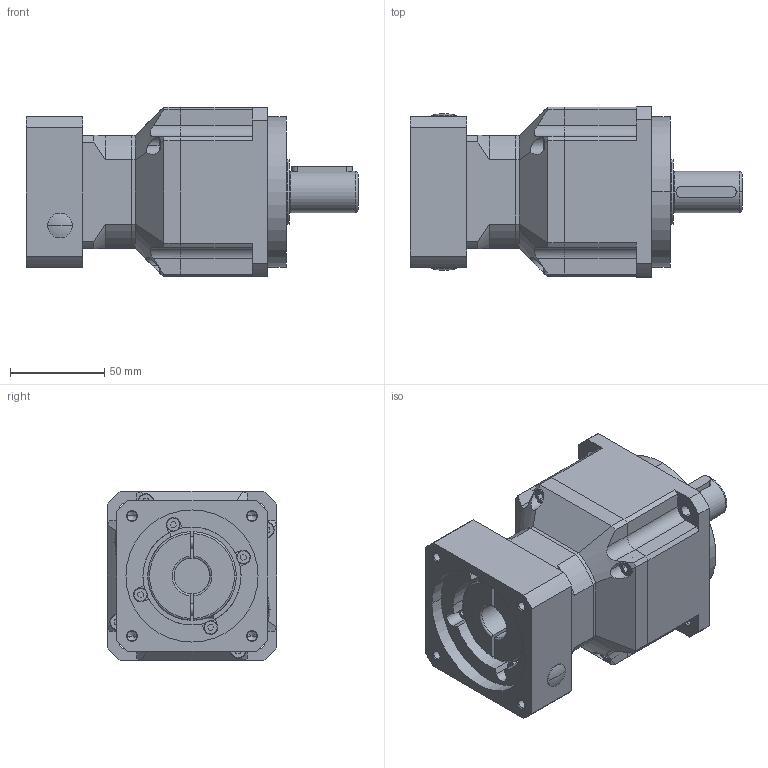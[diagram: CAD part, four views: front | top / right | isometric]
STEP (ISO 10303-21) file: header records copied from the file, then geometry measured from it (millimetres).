
FILE_DESCRIPTION (( 'STEP AP203' ), '1' );
FILE_NAME ('090-L2-19-70-90-M6(煦极宒)-T倰.STEP', '2020-06-20T08:46:09', ( 'ylmfeng' ), ( 'ylmfeng.com' ), 'SwSTEP 2.0', 'SolidWorks 2014', '' );
FILE_SCHEMA (( 'CONFIG_CONTROL_DESIGN' ));
Length unit declared in the file: millimetre
Products named in the file (1): 090-L2-19-70-90-M6(煦极宒)-T倰
Bounding box: 176 x 90 x 90 mm (x, y, z)
Volume: 758549.4 mm3; surface area: 125287.9 mm2
Topology: 21 solids, 22 shells, 588 faces, 1446 edges, 913 vertices
Faces by surface type: plane 243, cylinder 192, cone 74, torus 51, bspline 28
Entity records: 18799 total; most frequent: CARTESIAN_POINT 4731, DIRECTION 2995, ORIENTED_EDGE 2864, EDGE_CURVE 1432, AXIS2_PLACEMENT_3D 1152, VERTEX_POINT 913, LINE 691, VECTOR 691
